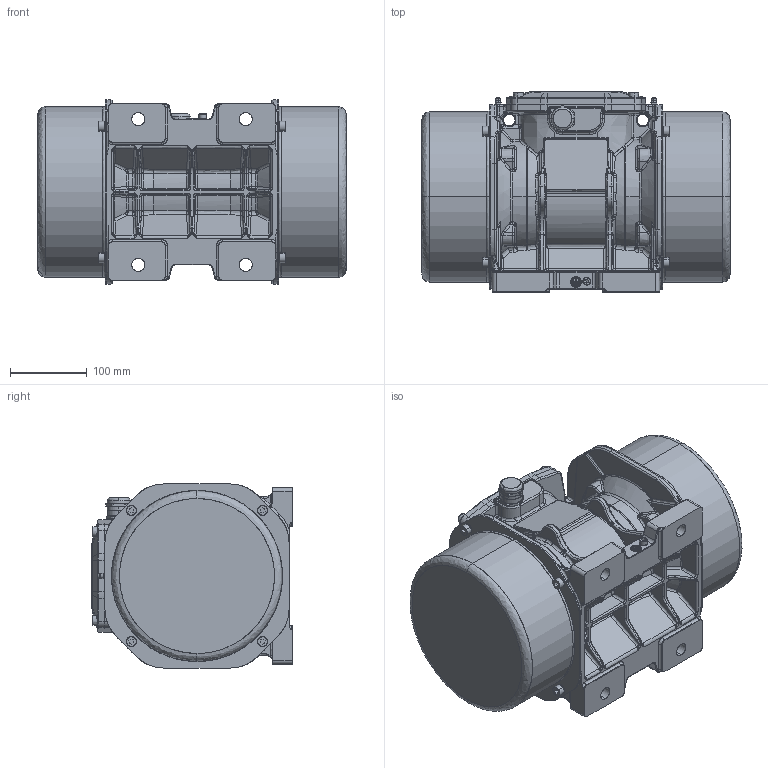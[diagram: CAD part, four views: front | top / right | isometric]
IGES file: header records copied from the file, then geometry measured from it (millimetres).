
Start section: SolidWorks IGES file using analytic representation for surfaces
Global section: file name: C:\Users\UT14\Desktop\DISEGNI_DI_INGOMBRO_RICCARDO\IGES\60-A0\MVE1600-3-36_MVE2000-3-36_MVE2300-3-36-60A0.IGS; native system: SolidWorks 2016; preprocessor: SolidWorks 2016; author: UT14; date: 180606.171243; units: millimetre
Bounding box: 402 x 261.02 x 240 mm (x, y, z)
Surface area: 578587.3 mm2 (no closed solid volume)
Topology: 0 solids, 0 shells, 2338 faces, 21005 edges, 20911 vertices
Faces by surface type: bspline 1483, revolution 855
